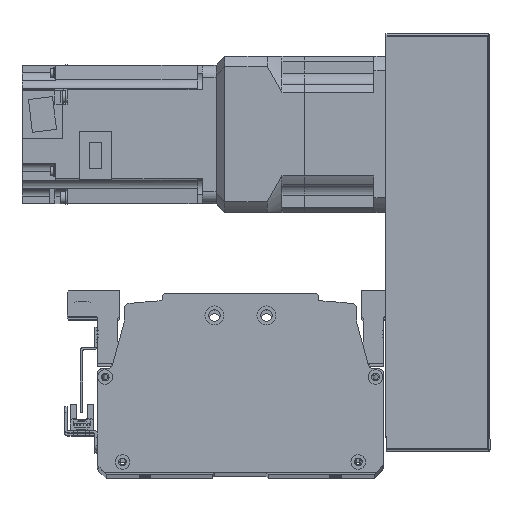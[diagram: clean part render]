
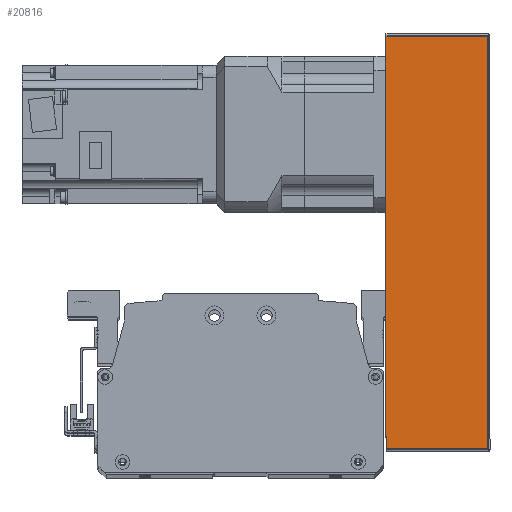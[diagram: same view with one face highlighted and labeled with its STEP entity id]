
A CAD part, top view. The second image highlights one B-rep face of the part: STEP entity #20816.
In plain terms, the highlighted planar face has unit normal (0, 0, 1) as drawn and (0, -1, 0) by its records, which use the part's own axes.
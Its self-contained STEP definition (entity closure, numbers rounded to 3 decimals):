
#564=PLANE('',#22692);
#1682=LINE('',#33073,#3342);
#1708=LINE('',#33169,#3368);
#1709=LINE('',#33177,#3369);
#1716=LINE('',#33202,#3376);
#3342=VECTOR('',#26903,10.);
#3368=VECTOR('',#27021,10.);
#3369=VECTOR('',#27032,10.);
#3376=VECTOR('',#27067,10.);
#5385=FACE_OUTER_BOUND('',#6837,.T.);
#6837=EDGE_LOOP('',(#16358,#16359,#16360,#16361));
#9711=VERTEX_POINT('',#33070);
#9712=VERTEX_POINT('',#33072);
#9736=VERTEX_POINT('',#33165);
#9737=VERTEX_POINT('',#33171);
#12074=EDGE_CURVE('',#9712,#9711,#1682,.T.);
#12124=EDGE_CURVE('',#9711,#9736,#1708,.T.);
#12128=EDGE_CURVE('',#9737,#9712,#1709,.T.);
#12141=EDGE_CURVE('',#9736,#9737,#1716,.T.);
#16358=ORIENTED_EDGE('',*,*,#12124,.T.);
#16359=ORIENTED_EDGE('',*,*,#12141,.T.);
#16360=ORIENTED_EDGE('',*,*,#12128,.T.);
#16361=ORIENTED_EDGE('',*,*,#12074,.T.);
#20816=ADVANCED_FACE('',(#5385),#564,.F.);
#22692=AXIS2_PLACEMENT_3D('',#33208,#27077,#27078);
#26903=DIRECTION('',(1.,0.,0.));
#27021=DIRECTION('',(0.,0.,1.));
#27032=DIRECTION('',(0.,0.,-1.));
#27067=DIRECTION('',(-1.,0.,0.));
#27077=DIRECTION('center_axis',(0.,1.,0.));
#27078=DIRECTION('ref_axis',(1.,0.,0.));
#33070=CARTESIAN_POINT('',(119.5,-51.,-30.));
#33072=CARTESIAN_POINT('',(-119.5,-51.,-30.));
#33073=CARTESIAN_POINT('',(120.5,-51.,-30.));
#33165=CARTESIAN_POINT('',(119.5,-51.,29.));
#33169=CARTESIAN_POINT('',(119.5,-51.,0.));
#33171=CARTESIAN_POINT('',(-119.5,-51.,29.));
#33177=CARTESIAN_POINT('',(-119.5,-51.,0.));
#33202=CARTESIAN_POINT('',(-60.25,-51.,29.));
#33208=CARTESIAN_POINT('Origin',(-120.5,-51.,0.));
